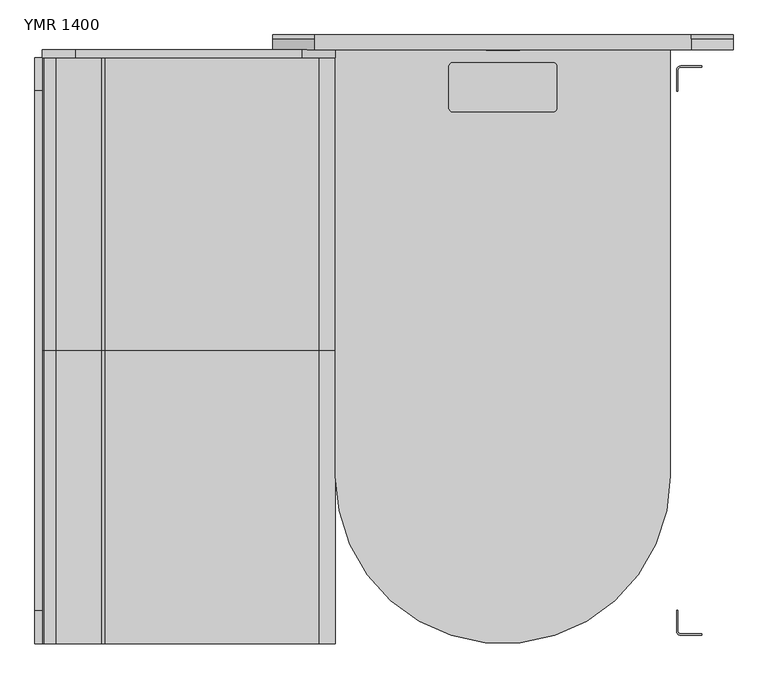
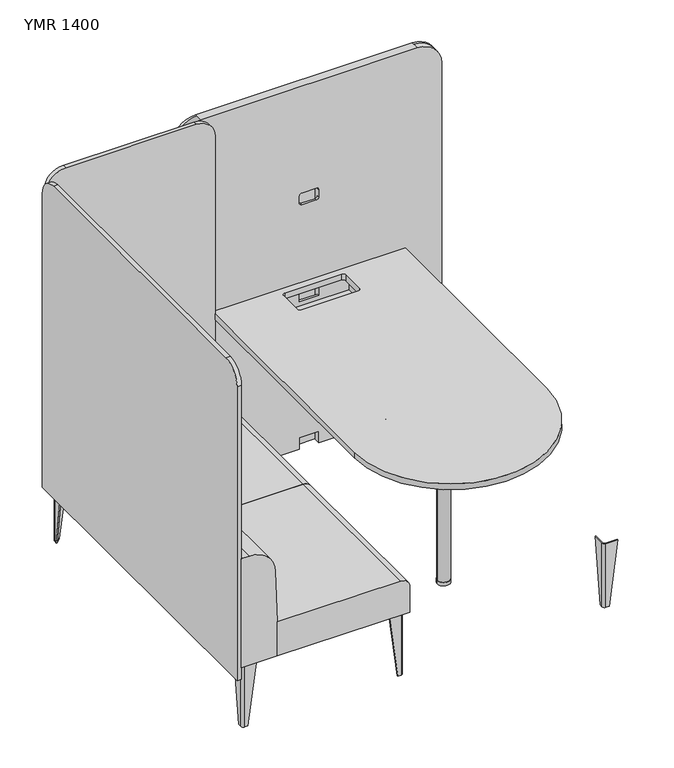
"""IFC4 building model written with IfcOpenShell, lengths in millimetres: furniture geometry, Mobiliário_Mobiliário de Escritório_LinhaYoung_Multimídia Enclosure - YMR_Marelli : YMR 1400."""

from ifc_helpers import new_model, si_unit, point, frame, frame_2d, origin, origin_with_axes, place, context, project, spatial, polyline, circle_curve, trimmed, segment, composite_curve, outline, extrude, source, transform, mapped, element, save
from ifc_brep_helpers import plane_surface, cylinder_surface, revolved_surface, advanced_brep


def ymr_1400_ceb6d955(model_context):
    return source(origin(), model_context, "Body", "SolidModel", [
        advanced_brep(
        [(360.0, -9.0, 10.0), (440.0, -9.0, 10.0), (440.0, -9.0, 1130.0), (360.0, -9.0, 1130.0), (-150.0, 0.0, 1500.0), (-50.0, 0.0, 1600.0), (850.0, 0.0, 1600.0), (950.0, 0.0, 1500.0), (950.0, 0.0, 10.0), (-150.0, 0.0, 10.0), (-150.0, -36.0, 10.0), (-150.0, -36.0, 1500.0), (-150.0, -9.0, 1500.0), (950.0, -36.0, 10.0), (440.0, -36.0, 10.0), (360.0, -36.0, 10.0), (950.0, -9.0, 1500.0), (950.0, -36.0, 1500.0), (850.0, -9.0, 1600.0), (-50.0, -9.0, 1600.0), (-50.0, -36.0, 1600.0), (850.0, -36.0, 1600.0), (360.0, -36.0, 60.0), (440.0, -36.0, 60.0), (360.0, -36.0, 1090.0), (360.0, -36.0, 1120.0), (370.0, -36.0, 1130.0), (430.0, -36.0, 1130.0), (440.0, -36.0, 1120.0), (440.0, -36.0, 1090.0), (430.0, -36.0, 1080.0), (370.0, -36.0, 1080.0), (360.0, -36.0, 657.0), (360.0, -36.0, 707.0), (440.0, -36.0, 707.0), (440.0, -36.0, 657.0), (440.0, -27.0, 60.0), (440.0, -27.0, 657.0), (440.0, -27.0, 707.0), (440.0, -27.0, 1090.0), (440.0, -27.0, 1120.0), (440.0, -27.0, 1130.0), (430.0, -27.0, 1130.0), (370.0, -27.0, 1130.0), (360.0, -27.0, 1130.0), (360.0, -27.0, 1120.0), (360.0, -27.0, 1090.0), (360.0, -27.0, 707.0), (360.0, -27.0, 657.0), (360.0, -27.0, 60.0), (370.0, -27.0, 1080.0), (430.0, -27.0, 1080.0)],
        [
            (0, 1),
            (1, 2),
            (2, 3),
            (3, 0),
            (4, 5, circle_curve(frame((-50.0, 0.0, 1500.0), z_axis=(0.0, 1.0, 0.0), x_axis=(1.0, 0.0, 0.0)), 100.0)),
            (5, 6),
            (6, 7, circle_curve(frame((850.0, 0.0, 1500.0), z_axis=(0.0, 1.0, 0.0), x_axis=(-1.0, 0.0, 0.0)), 100.0)),
            (7, 8),
            (8, 9),
            (9, 4),
            (9, 10),
            (10, 11),
            (11, 12),
            (12, 4),
            (8, 13),
            (13, 14),
            (14, 1),
            (0, 15),
            (15, 10),
            (7, 16),
            (16, 17),
            (17, 13),
            (6, 18),
            (18, 16, circle_curve(frame((850.0, -9.0, 1500.0), z_axis=(0.0, 1.0, 0.0), x_axis=(-1.0, 0.0, 0.0)), 100.0)),
            (5, 19),
            (19, 20),
            (20, 21),
            (21, 18),
            (12, 19, circle_curve(frame((-50.0, -9.0, 1500.0), z_axis=(0.0, 1.0, 0.0), x_axis=(1.0, 0.0, 0.0)), 100.0)),
            (15, 22),
            (22, 23),
            (23, 14),
            (17, 21, circle_curve(frame((850.0, -36.0, 1500.0), z_axis=(0.0, -1.0, 0.0), x_axis=(-1.0, 0.0, 0.0)), 100.0)),
            (20, 11, circle_curve(frame((-50.0, -36.0, 1500.0), z_axis=(0.0, -1.0, 0.0), x_axis=(1.0, 0.0, 0.0)), 100.0)),
            (24, 25),
            (25, 26, circle_curve(frame((370.0, -36.0, 1120.0), z_axis=(0.0, 1.0, 0.0), x_axis=(-1.0, 0.0, 0.0)), 10.0)),
            (26, 27),
            (27, 28, circle_curve(frame((430.0, -36.0, 1120.0), z_axis=(0.0, 1.0, 0.0), x_axis=(1.0, 0.0, 0.0)), 10.0)),
            (28, 29),
            (29, 30, circle_curve(frame((430.0, -36.0, 1090.0), z_axis=(0.0, 1.0, 0.0), x_axis=(1.0, 0.0, 0.0)), 10.0)),
            (30, 31),
            (31, 24, circle_curve(frame((370.0, -36.0, 1090.0), z_axis=(0.0, 1.0, 0.0), x_axis=(-1.0, 0.0, 0.0)), 10.0)),
            (32, 33),
            (33, 34),
            (34, 35),
            (35, 32),
            (23, 36),
            (36, 37),
            (37, 35),
            (34, 38),
            (38, 39),
            (39, 29),
            (28, 40),
            (40, 41),
            (41, 2),
            (41, 42),
            (42, 27),
            (26, 43),
            (43, 44),
            (44, 3),
            (44, 45),
            (45, 25),
            (24, 46),
            (46, 47),
            (47, 33),
            (32, 48),
            (48, 49),
            (49, 22),
            (40, 42, circle_curve(frame((430.0, -27.0, 1120.0), z_axis=(0.0, -1.0, 0.0), x_axis=(1.0, 0.0, 0.0)), 10.0)),
            (43, 45, circle_curve(frame((370.0, -27.0, 1120.0), z_axis=(0.0, -1.0, 0.0), x_axis=(-1.0, 0.0, 0.0)), 10.0)),
            (36, 49),
            (48, 37),
            (38, 47),
            (46, 50, circle_curve(frame((370.0, -27.0, 1090.0), z_axis=(0.0, -1.0, 0.0), x_axis=(-1.0, 0.0, 0.0)), 10.0)),
            (50, 51),
            (51, 39, circle_curve(frame((430.0, -27.0, 1090.0), z_axis=(0.0, -1.0, 0.0), x_axis=(1.0, 0.0, 0.0)), 10.0)),
            (51, 30),
            (50, 31),
        ],
        [
            plane_surface(frame((-150.0, -9.0, 0.0), z_axis=(0.0, -1.0, 0.0), x_axis=(0.0, 0.0, -1.0))),
            plane_surface(frame((-150.0, 0.0, 0.0), z_axis=(0.0, 1.0, 0.0), x_axis=(0.0, 0.0, 1.0))),
            plane_surface(frame((-150.0, -9.0, 1500.0), z_axis=(-1.0, 0.0, 0.0), x_axis=(0.0, 1.0, 0.0))),
            plane_surface(frame((-150.0, -9.0, 10.0), z_axis=(0.0, 0.0, -1.0), x_axis=(0.0, 1.0, 0.0))),
            plane_surface(frame((950.0, -9.0, 10.0), z_axis=(1.0, 0.0, 0.0), x_axis=(0.0, 1.0, 0.0))),
            cylinder_surface(frame((850.0, 0.0, 1500.0), z_axis=(0.0, -1.0, 0.0), x_axis=(-1.0, 0.0, 0.0)), 100.0),
            plane_surface(frame((850.0, -9.0, 1600.0), z_axis=(0.0, 0.0, 1.0), x_axis=(0.0, 1.0, 0.0))),
            cylinder_surface(frame((-50.0, 0.0, 1500.0), z_axis=(0.0, -1.0, 0.0), x_axis=(1.0, 0.0, 0.0)), 100.0),
            plane_surface(frame((50.0, -36.0, 1500.0), z_axis=(0.0, -1.0, 0.0), x_axis=(0.0, 0.0, 1.0))),
            cylinder_surface(frame((850.0, -36.0, 1500.0), z_axis=(0.0, 1.0, 0.0), x_axis=(-1.0, 0.0, 0.0)), 100.0),
            cylinder_surface(frame((-50.0, -36.0, 1500.0), z_axis=(0.0, 1.0, 0.0), x_axis=(1.0, 0.0, 0.0)), 100.0),
            plane_surface(frame((440.0, -9.0, 10.0), z_axis=(-1.0, 0.0, 0.0), x_axis=(0.0, -1.0, 0.0))),
            plane_surface(frame((440.0, -9.0, 1130.0), z_axis=(0.0, 0.0, -1.0), x_axis=(0.0, -1.0, 0.0))),
            plane_surface(frame((360.0, -9.0, 1130.0), z_axis=(1.0, 0.0, 0.0), x_axis=(0.0, -1.0, 0.0))),
            plane_surface(frame((440.0, -27.0, 1130.0), z_axis=(0.0, 1.0, 0.0), x_axis=(0.0, 0.0, -1.0))),
            revolved_surface(polyline([(440.0, -27.0, 1120.0), (440.0, -36.0, 1120.0)]), (430.0, -27.0, 1120.0), (0.0, 1.0, 0.0)),
            revolved_surface(polyline([(360.0, -27.0, 1120.0), (360.0, -36.0, 1120.0)]), (370.0, 0.0, 1120.0), (0.0, 1.0, 0.0)),
            revolved_surface(polyline([(440.0, -27.0, 1090.0), (440.0, -36.0, 1090.0)]), (430.0, 0.0, 1090.0), (0.0, 1.0, 0.0)),
            plane_surface(frame((430.0, -36.0, 1080.0), z_axis=(0.0, 0.0, 1.0), x_axis=(0.0, 1.0, 0.0))),
            revolved_surface(polyline([(360.0, -27.0, 1090.0), (360.0, -36.0, 1090.0)]), (370.0, 0.0, 1090.0), (0.0, 1.0, 0.0)),
            plane_surface(frame((360.0, -36.0, 60.0), z_axis=(0.0, 0.0, -1.0), x_axis=(0.0, 1.0, 0.0))),
            plane_surface(frame((440.0, -36.0, 657.0), z_axis=(0.0, 0.0, 1.0), x_axis=(0.0, 1.0, 0.0))),
            plane_surface(frame((360.0, -36.0, 707.0), z_axis=(0.0, 0.0, -1.0), x_axis=(0.0, 1.0, 0.0))),
        ],
        [
            (0, [[1, 2, 3, 4]]),
            (1, [[5, 6, 7, 8, 9, 10]]),
            (2, [[-10, 11, 12, 13, 14]]),
            (3, [[-9, 15, 16, 17, -1, 18, 19, -11]]),
            (4, [[-8, 20, 21, 22, -15]]),
            (5, [[-7, 23, 24, -20]]),
            (6, [[-6, 25, 26, 27, 28, -23]]),
            (7, [[-5, -14, 29, -25]]),
            (8, [[-12, -19, 30, 31, 32, -16, -22, 33, -27, 34], [35, 36, 37, 38, 39, 40, 41, 42], [43, 44, 45, 46]]),
            (9, [[-33, -21, -24, -28]]),
            (10, [[-34, -26, -29, -13]]),
            (11, [[-17, -32, 47, 48, 49, -45, 50, 51, 52, -39, 53, 54, 55, -2]]),
            (12, [[-3, -55, 56, 57, -37, 58, 59, 60]]),
            (13, [[-18, -4, -60, 61, 62, -35, 63, 64, 65, -43, 66, 67, 68, -30]]),
            (14, [[69, -56, -54]]),
            (14, [[70, -61, -59]]),
            (14, [[71, -67, 72, -48]]),
            (14, [[73, -64, 74, 75, 76, -51]]),
            (15, [[-38, -57, -69, -53]]),
            (16, [[-36, -62, -70, -58]]),
            (17, [[-40, -52, -76, 77]]),
            (18, [[-41, -77, -75, 78]]),
            (19, [[-42, -78, -74, -63]]),
            (20, [[-31, -68, -71, -47]]),
            (21, [[-46, -49, -72, -66]]),
            (22, [[-44, -65, -73, -50]]),
        ],
    ),
        extrude(outline(composite_curve([segment(trimmed(circle_curve(frame_2d((400.0, -1054.0)), 400.0), [point((800.0, -1054.0))], [point((0.0, -1054.0))], False, "CARTESIAN"), True, "CONTINUOUS"), segment(polyline([(0.0, -1054.0), (0.0, -36.0), (800.0, -36.0), (800.0, -1054.0)]), True, "CONTINUOUS")], self_intersect=False), holes=[composite_curve([segment(polyline([(519.0, -66.0), (281.0, -66.0)]), True, "CONTINUOUS"), segment(trimmed(circle_curve(frame_2d((281.0, -76.0)), 10.0), [point((281.0, -66.0))], [point((271.0, -76.0))], True, "CARTESIAN"), True, "CONTINUOUS"), segment(polyline([(271.0, -76.0), (271.0, -174.0)]), True, "CONTINUOUS"), segment(trimmed(circle_curve(frame_2d((281.0, -174.0)), 10.0), [point((271.0, -174.0))], [point((281.0, -184.0))], True, "CARTESIAN"), True, "CONTINUOUS"), segment(polyline([(281.0, -184.0), (519.0, -184.0)]), True, "CONTINUOUS"), segment(trimmed(circle_curve(frame_2d((519.0, -174.0)), 10.0), [point((519.0, -184.0))], [point((529.0, -174.0))], True, "CARTESIAN"), True, "CONTINUOUS"), segment(polyline([(529.0, -174.0), (529.0, -76.0)]), True, "CONTINUOUS"), segment(trimmed(circle_curve(frame_2d((519.0, -76.0)), 10.0), [point((529.0, -76.0))], [point((519.0, -66.0))], True, "CARTESIAN"), True, "CONTINUOUS")], self_intersect=False)]), frame((0.0, 0.0, 715.0), z_axis=(0.0, 0.0, 1.0), x_axis=(1.0, 0.0, 0.0)), (0.0, 0.0, 1.0), 25.0),
        extrude(outline(composite_curve([segment(polyline([(359.3038815, -954.0), (440.6961185, -954.0)]), True, "CONTINUOUS"), segment(trimmed(circle_curve(frame_2d((440.6961185, -955.8038815)), 1.8038815), [point((440.6961185, -954.0))], [point((442.5, -955.8038815))], False, "CARTESIAN"), True, "CONTINUOUS"), segment(polyline([(442.5, -955.8038815), (442.5, -1052.1961185)]), True, "CONTINUOUS"), segment(trimmed(circle_curve(frame_2d((440.6961185, -1052.1961185)), 1.8038815), [point((442.5, -1052.1961185))], [point((440.6961185, -1054.0))], False, "CARTESIAN"), True, "CONTINUOUS"), segment(polyline([(440.6961185, -1054.0), (359.3038815, -1054.0)]), True, "CONTINUOUS"), segment(trimmed(circle_curve(frame_2d((359.3038815, -1052.1961185)), 1.8038815), [point((359.3038815, -1054.0))], [point((357.5, -1052.1961185))], False, "CARTESIAN"), True, "CONTINUOUS"), segment(polyline([(357.5, -1052.1961185), (357.5, -955.8038815)]), True, "CONTINUOUS"), segment(trimmed(circle_curve(frame_2d((359.3038815, -955.8038815)), 1.8038815), [point((357.5, -955.8038815))], [point((359.3038815, -954.0))], False, "CARTESIAN"), True, "CONTINUOUS")], self_intersect=False)), frame((0.0, 0.0, 713.0), z_axis=(0.0, 0.0, 1.0), x_axis=(1.0, 0.0, 0.0)), (0.0, 0.0, 1.0), 2.0),
        extrude(outline(composite_curve([segment(trimmed(circle_curve(frame_2d((400.0, -1004.0)), 25.0), [point((375.0, -1004.0))], [point((425.0, -1004.0))], False, "CARTESIAN"), True, "CONTINUOUS"), segment(trimmed(circle_curve(frame_2d((400.0, -1004.0)), 25.0), [point((425.0, -1004.0))], [point((375.0, -1004.0))], False, "CARTESIAN"), True, "CONTINUOUS")], self_intersect=False)), frame((0.0, 0.0, 15.0), z_axis=(0.0, 0.0, 1.0), x_axis=(1.0, 0.0, 0.0)), (0.0, 0.0, 1.0), 698.0),
        extrude(outline(composite_curve([segment(trimmed(circle_curve(frame_2d((400.0, -1004.0)), 26.0), [point((374.0, -1004.0))], [point((426.0, -1004.0))], False, "CARTESIAN"), True, "CONTINUOUS"), segment(trimmed(circle_curve(frame_2d((400.0, -1004.0)), 26.0), [point((426.0, -1004.0))], [point((374.0, -1004.0))], False, "CARTESIAN"), True, "CONTINUOUS")], self_intersect=False)), origin_with_axes(), (0.0, 0.0, 1.0), 15.0),
        extrude(outline(polyline([(-36.0, 582.0), (-38.0, 582.0), (-38.0, 665.1173334), (-91.4142136, 713.5857864), (-148.0, 713.5857864), (-148.0, 715.0), (-90.0, 715.0), (-36.0, 666.0), (-36.0, 582.0)])), frame((100.0, 0.0, 0.0), z_axis=(1.0, 0.0, 0.0), x_axis=(0.0, 1.0, 0.0)), (0.0, 0.0, 1.0), 85.0),
        extrude(outline(polyline([(-36.0, 582.0), (-38.0, 582.0), (-38.0, 665.1173334), (-91.4142136, 713.5857864), (-148.0, 713.5857864), (-148.0, 715.0), (-90.0, 715.0), (-36.0, 666.0), (-36.0, 582.0)])), frame((615.0, 0.0, 0.0), z_axis=(1.0, 0.0, 0.0), x_axis=(0.0, 1.0, 0.0)), (0.0, 0.0, 1.0), 85.0),
        extrude(outline(composite_curve([segment(polyline([(459.0, 465.0), (459.0, 335.0)]), True, "CONTINUOUS"), segment(trimmed(circle_curve(frame_2d((449.0, 335.0)), 10.0), [point((459.0, 335.0))], [point((449.0, 325.0))], False, "CARTESIAN"), True, "CONTINUOUS"), segment(polyline([(449.0, 325.0), (412.0, 325.0)]), True, "CONTINUOUS"), segment(trimmed(circle_curve(frame_2d((412.0, 335.0)), 10.0), [point((412.0, 325.0))], [point((402.0, 335.0))], False, "CARTESIAN"), True, "CONTINUOUS"), segment(polyline([(402.0, 335.0), (402.0, 465.0)]), True, "CONTINUOUS"), segment(trimmed(circle_curve(frame_2d((412.0, 465.0)), 10.0), [point((402.0, 465.0))], [point((412.0, 475.0))], False, "CARTESIAN"), True, "CONTINUOUS"), segment(polyline([(412.0, 475.0), (449.0, 475.0)]), True, "CONTINUOUS"), segment(trimmed(circle_curve(frame_2d((449.0, 465.0)), 10.0), [point((449.0, 475.0))], [point((459.0, 465.0))], False, "CARTESIAN"), True, "CONTINUOUS")], self_intersect=False)), frame((0.0, -41.0, 0.0), z_axis=(0.0, 1.0, 0.0), x_axis=(0.0, 0.0, 1.0)), (0.0, 0.0, 1.0), 5.0),
        extrude(outline(composite_curve([segment(trimmed(circle_curve(frame_2d((465.0, -302.0)), 10.0), [point((465.0, -292.0))], [point((475.0, -302.0))], False, "CARTESIAN"), True, "CONTINUOUS"), segment(polyline([(475.0, -302.0), (475.0, -339.0)]), True, "CONTINUOUS"), segment(trimmed(circle_curve(frame_2d((465.0, -339.0)), 10.0), [point((475.0, -339.0))], [point((465.0, -349.0))], False, "CARTESIAN"), True, "CONTINUOUS"), segment(polyline([(465.0, -349.0), (335.0, -349.0)]), True, "CONTINUOUS"), segment(trimmed(circle_curve(frame_2d((335.0, -339.0)), 10.0), [point((335.0, -349.0))], [point((325.0, -339.0))], False, "CARTESIAN"), True, "CONTINUOUS"), segment(polyline([(325.0, -339.0), (325.0, -302.0)]), True, "CONTINUOUS"), segment(trimmed(circle_curve(frame_2d((335.0, -302.0)), 10.0), [point((325.0, -302.0))], [point((335.0, -292.0))], False, "CARTESIAN"), True, "CONTINUOUS"), segment(polyline([(335.0, -292.0), (465.0, -292.0)]), True, "CONTINUOUS")], self_intersect=False)), frame((0.0, 0.0, 710.0), z_axis=(0.0, 0.0, 1.0), x_axis=(1.0, 0.0, 0.0)), (0.0, 0.0, 1.0), 5.0),
        extrude(outline(polyline([(-41.0, 449.0), (-41.0, 417.0), (-334.0, 710.0), (-302.0, 710.0), (-41.0, 449.0)])), frame((389.5, 0.0, 0.0), z_axis=(1.0, 0.0, 0.0), x_axis=(0.0, 1.0, 0.0)), (0.0, 0.0, 1.0), 21.0),
        advanced_brep(
        [(74.5, -18.0, 6.0), (85.5, -18.0, 6.0), (69.5, -18.0, 0.0), (90.5, -18.0, 0.0)],
        [
            (0, 1, circle_curve(frame((80.0, -18.0, 6.0), z_axis=(0.0, 0.0, 1.0), x_axis=(-1.0, 0.0, 0.0)), 5.5)),
            (1, 0, circle_curve(frame((80.0, -18.0, 6.0), z_axis=(0.0, 0.0, 1.0), x_axis=(1.0, 0.0, 0.0)), 5.5)),
            (2, 3, circle_curve(frame((80.0, -18.0, 0.0), z_axis=(0.0, 0.0, -1.0), x_axis=(1.0, 0.0, 0.0)), 10.5)),
            (3, 2, circle_curve(frame((80.0, -18.0, 0.0), z_axis=(0.0, 0.0, -1.0), x_axis=(-1.0, 0.0, 0.0)), 10.5)),
            (3, 1),
            (0, 2),
        ],
        [
            plane_surface(frame((80.0, -18.0, 6.0), z_axis=(0.0, 0.0, 1.0), x_axis=(0.0, -1.0, 0.0))),
            plane_surface(frame((80.0, -18.0, 0.0), z_axis=(0.0, 0.0, -1.0), x_axis=(0.0, -1.0, 0.0))),
            revolved_surface(polyline([(74.5, -18.0, 5.999999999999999), (69.5, -18.0, 0.0)]), (80.0, -18.0, 12.6), (0.0, 0.0, -1.0)),
            revolved_surface(polyline([(85.5, -18.0, 5.999999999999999), (90.5, -18.0, 0.0)]), (80.0, -18.0, 12.6), (0.0, 0.0, -1.0)),
        ],
        [
            (0, [[1, 2]]),
            (1, [[3, 4]]),
            (2, [[-4, 5, -1, 6]]),
            (3, [[-3, -6, -2, -5]]),
        ],
    ),
        advanced_brep(
        [(725.5, -18.0, 6.0), (714.5, -18.0, 6.0), (730.5, -18.0, 0.0), (709.5, -18.0, 0.0)],
        [
            (0, 1, circle_curve(frame((720.0, -18.0, 6.0), z_axis=(0.0, 0.0, 1.0), x_axis=(1.0, 0.0, 0.0)), 5.5)),
            (1, 0, circle_curve(frame((720.0, -18.0, 6.0), z_axis=(0.0, 0.0, 1.0), x_axis=(-1.0, 0.0, 0.0)), 5.5)),
            (2, 3, circle_curve(frame((720.0, -18.0, 0.0), z_axis=(0.0, 0.0, -1.0), x_axis=(-1.0, 0.0, 0.0)), 10.5)),
            (3, 2, circle_curve(frame((720.0, -18.0, 0.0), z_axis=(0.0, 0.0, -1.0), x_axis=(1.0, 0.0, 0.0)), 10.5)),
            (2, 0),
            (1, 3),
        ],
        [
            plane_surface(frame((720.0, -18.0, 6.0), z_axis=(0.0, 0.0, 1.0), x_axis=(0.0, 1.0, 0.0))),
            plane_surface(frame((720.0, -18.0, 0.0), z_axis=(0.0, 0.0, -1.0), x_axis=(0.0, 1.0, 0.0))),
            revolved_surface(polyline([(714.5, -18.0, 5.999999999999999), (709.5, -18.0, 0.0)]), (720.0, -18.0, 12.6), (0.0, 0.0, -1.0)),
            revolved_surface(polyline([(725.5, -18.0, 5.999999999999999), (730.5, -18.0, 0.0)]), (720.0, -18.0, 12.6), (0.0, 0.0, -1.0)),
        ],
        [
            (0, [[1, 2]]),
            (1, [[3, 4]]),
            (2, [[-3, 5, -2, 6]]),
            (3, [[-4, -6, -1, -5]]),
        ],
    ),
        extrude(outline(composite_curve([segment(trimmed(circle_curve(frame_2d((80.0, -18.0)), 5.0), [point((75.0, -18.0))], [point((85.0, -18.0))], False, "CARTESIAN"), True, "CONTINUOUS"), segment(trimmed(circle_curve(frame_2d((80.0, -18.0)), 5.0), [point((85.0, -18.0))], [point((75.0, -18.0))], False, "CARTESIAN"), True, "CONTINUOUS")], self_intersect=False)), frame((0.0, 0.0, 6.0), z_axis=(0.0, 0.0, 1.0), x_axis=(1.0, 0.0, 0.0)), (0.0, 0.0, 1.0), 4.0),
        extrude(outline(composite_curve([segment(trimmed(circle_curve(frame_2d((720.0, -18.0)), 5.0), [point((725.0, -18.0))], [point((715.0, -18.0))], False, "CARTESIAN"), True, "CONTINUOUS"), segment(trimmed(circle_curve(frame_2d((720.0, -18.0)), 5.0), [point((715.0, -18.0))], [point((725.0, -18.0))], False, "CARTESIAN"), True, "CONTINUOUS")], self_intersect=False)), frame((0.0, 0.0, 6.0), z_axis=(0.0, 0.0, 1.0), x_axis=(1.0, 0.0, 0.0)), (0.0, 0.0, 1.0), 4.0),
        extrude(outline(polyline([(645.0, 239.0), (645.0, 561.0), (715.0, 561.0), (715.0, 560.0), (646.0, 560.0), (646.0, 240.0), (715.0, 240.0), (715.0, 239.0), (645.0, 239.0)])), frame((0.0, -191.0, 0.0), z_axis=(0.0, 1.0, 0.0), x_axis=(0.0, 0.0, 1.0)), (0.0, 0.0, 1.0), 145.0),
        extrude(outline(polyline([(558.0, -191.0), (245.0, -191.0), (245.0, -190.0), (558.0, -190.0), (558.0, -191.0)])), frame((0.0, 0.0, 648.0), z_axis=(0.0, 0.0, 1.0), x_axis=(1.0, 0.0, 0.0)), (0.0, 0.0, 1.0), 67.0),
        advanced_brep(
        [(-75.0, -1434.0, 280.0), (-25.0, -1434.0, 280.0), (-15.0, -1424.0, 280.0), (-15.0, -1374.0, 280.0), (-18.0, -1374.0, 280.0), (-18.0, -1424.0, 280.0), (-25.0, -1431.0, 280.0), (-75.0, -1431.0, 280.0), (-39.0, -1434.0, 0.0), (-39.0, -1431.0, 0.0), (-25.0, -1431.0, 0.0), (-18.0, -1424.0, 0.0), (-18.0, -1410.0, 0.0), (-15.0, -1410.0, 0.0), (-15.0, -1424.0, 0.0), (-25.0, -1434.0, 0.0)],
        [
            (0, 1),
            (1, 2, circle_curve(frame((-25.0, -1424.0, 280.0), z_axis=(0.0, 0.0, 1.0), x_axis=(1.0, 0.0, 0.0)), 10.0)),
            (2, 3),
            (3, 4),
            (4, 5),
            (5, 6, circle_curve(frame((-25.0, -1424.0, 280.0), z_axis=(0.0, 0.0, -1.0), x_axis=(0.0, -1.0, 0.0)), 7.0)),
            (6, 7),
            (7, 0),
            (8, 9),
            (9, 10),
            (10, 11, circle_curve(frame((-25.0, -1424.0, 0.0), z_axis=(0.0, 0.0, 1.0), x_axis=(0.0, -1.0, 0.0)), 7.0)),
            (11, 12),
            (12, 13),
            (13, 14),
            (14, 15, circle_curve(frame((-25.0, -1424.0, 0.0), z_axis=(0.0, 0.0, -1.0), x_axis=(1.0, 0.0, 0.0)), 10.0)),
            (15, 8),
            (15, 1),
            (0, 8),
            (14, 2),
            (13, 3),
            (12, 4),
            (11, 5),
            (10, 6),
            (9, 7),
        ],
        [
            plane_surface(frame((-33.25, -1415.75, 280.0), z_axis=(0.0, 0.0, 1.0), x_axis=(1.0, 0.0, 0.0))),
            plane_surface(frame((-24.25, -1424.75, 0.0), z_axis=(0.0, 0.0, -1.0), x_axis=(1.0, 0.0, 0.0))),
            plane_surface(frame((-32.0, -1434.0, 0.0), z_axis=(0.0, -1.0, 0.0), x_axis=(1.0, 0.0, 0.0))),
            cylinder_surface(frame((-25.0, -1424.0, 0.0), z_axis=(0.0, 0.0, 1.0), x_axis=(1.0, 0.0, 0.0)), 10.0),
            plane_surface(frame((-15.0, -1417.0, 0.0), z_axis=(1.0, 0.0, 0.0), x_axis=(0.0, 1.0, 0.0))),
            plane_surface(frame((-16.5, -1410.0, 0.0), z_axis=(0.0, 0.9918357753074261, -0.127521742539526), x_axis=(-1.0, 0.0, 0.0))),
            plane_surface(frame((-18.0, -1417.0, 0.0), z_axis=(-1.0, 0.0, 0.0), x_axis=(0.0, -1.0, 0.0))),
            revolved_surface(polyline([(-25.0, -1431.0, 280.0), (-25.0, -1431.0, 0.0)]), (-25.0, -1424.0, 0.0), (0.0, 0.0, 1.0)),
            plane_surface(frame((-32.0, -1431.0, 0.0), z_axis=(0.0, 1.0, 0.0), x_axis=(-1.0, 0.0, 0.0))),
            plane_surface(frame((-39.0, -1432.5, 0.0), z_axis=(-0.9918357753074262, 0.0, -0.12752174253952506), x_axis=(0.0, -1.0, 0.0))),
        ],
        [
            (0, [[1, 2, 3, 4, 5, 6, 7, 8]]),
            (1, [[9, 10, 11, 12, 13, 14, 15, 16]]),
            (2, [[-16, 17, -1, 18]]),
            (3, [[-15, 19, -2, -17]]),
            (4, [[-14, 20, -3, -19]]),
            (5, [[-13, 21, -4, -20]]),
            (6, [[-12, 22, -5, -21]]),
            (7, [[-11, 23, -6, -22]]),
            (8, [[-10, 24, -7, -23]]),
            (9, [[-9, -18, -8, -24]]),
        ],
    ),
        advanced_brep(
        [(-75.0, -74.0, 280.0), (-75.0, -77.0, 280.0), (-25.0, -77.0, 280.0), (-18.0, -84.0, 280.0), (-18.0, -134.0, 280.0), (-15.0, -134.0, 280.0), (-15.0, -84.0, 280.0), (-25.0, -74.0, 280.0), (-39.0, -74.0, 0.0), (-25.0, -74.0, 0.0), (-15.0, -84.0, 0.0), (-15.0, -98.0, 0.0), (-18.0, -98.0, 0.0), (-18.0, -84.0, 0.0), (-25.0, -77.0, 0.0), (-39.0, -77.0, 0.0)],
        [
            (0, 1),
            (1, 2),
            (2, 3, circle_curve(frame((-25.0, -84.0, 280.0), z_axis=(0.0, 0.0, -1.0), x_axis=(1.0, 0.0, 0.0)), 7.0)),
            (3, 4),
            (4, 5),
            (5, 6),
            (6, 7, circle_curve(frame((-25.0, -84.0, 280.0), z_axis=(0.0, 0.0, 1.0), x_axis=(0.0, 1.0, 0.0)), 10.0)),
            (7, 0),
            (8, 9),
            (9, 10, circle_curve(frame((-25.0, -84.0, 0.0), z_axis=(0.0, 0.0, -1.0), x_axis=(0.0, 1.0, 0.0)), 10.0)),
            (10, 11),
            (11, 12),
            (12, 13),
            (13, 14, circle_curve(frame((-25.0, -84.0, 0.0), z_axis=(0.0, 0.0, 1.0), x_axis=(1.0, 0.0, 0.0)), 7.0)),
            (14, 15),
            (15, 8),
            (8, 0),
            (7, 9),
            (6, 10),
            (5, 11),
            (4, 12),
            (3, 13),
            (2, 14),
            (1, 15),
        ],
        [
            plane_surface(frame((-33.25, -92.25, 280.0), z_axis=(0.0, 0.0, 1.0), x_axis=(0.0, -1.0, 0.0))),
            plane_surface(frame((-24.25, -83.25, 0.0), z_axis=(0.0, 0.0, -1.0), x_axis=(0.0, -1.0, 0.0))),
            plane_surface(frame((-32.0, -74.0, 0.0), z_axis=(0.0, 1.0, 0.0), x_axis=(-1.0, 0.0, 0.0))),
            cylinder_surface(frame((-25.0, -84.0, 0.0), z_axis=(0.0, 0.0, 1.0), x_axis=(0.0, 1.0, 0.0)), 10.0),
            plane_surface(frame((-15.0, -91.0, 0.0), z_axis=(1.0, 0.0, 0.0), x_axis=(0.0, 1.0, 0.0))),
            plane_surface(frame((-16.5, -98.0, 0.0), z_axis=(0.0, -0.9918357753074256, -0.12752174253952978), x_axis=(1.0, 0.0, 0.0))),
            plane_surface(frame((-18.0, -91.0, 0.0), z_axis=(-1.0, 0.0, 0.0), x_axis=(0.0, -1.0, 0.0))),
            revolved_surface(polyline([(-18.0, -84.0, 280.0), (-18.0, -84.0, 0.0)]), (-25.0, -84.0, 0.0), (0.0, 0.0, 1.0)),
            plane_surface(frame((-32.0, -77.0, 0.0), z_axis=(0.0, -1.0, 0.0), x_axis=(1.0, 0.0, 0.0))),
            plane_surface(frame((-39.0, -75.5, 0.0), z_axis=(-0.9918357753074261, 0.0, -0.12752174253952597), x_axis=(0.0, -1.0, 0.0))),
        ],
        [
            (0, [[1, 2, 3, 4, 5, 6, 7, 8]]),
            (1, [[9, 10, 11, 12, 13, 14, 15, 16]]),
            (2, [[-9, 17, -8, 18]]),
            (3, [[-10, -18, -7, 19]]),
            (4, [[-11, -19, -6, 20]]),
            (5, [[-12, -20, -5, 21]]),
            (6, [[-13, -21, -4, 22]]),
            (7, [[-14, -22, -3, 23]]),
            (8, [[-15, -23, -2, 24]]),
            (9, [[-16, -24, -1, -17]]),
        ],
    ),
        advanced_brep(
        [(-625.0, -1434.0, 280.0), (-625.0, -1431.0, 280.0), (-675.0, -1431.0, 280.0), (-682.0, -1424.0, 280.0), (-682.0, -1374.0, 280.0), (-685.0, -1374.0, 280.0), (-685.0, -1424.0, 280.0), (-675.0, -1434.0, 280.0), (-661.0, -1434.0, 0.0), (-675.0, -1434.0, 0.0), (-685.0, -1424.0, 0.0), (-685.0, -1410.0, 0.0), (-682.0, -1410.0, 0.0), (-682.0, -1424.0, 0.0), (-675.0, -1431.0, 0.0), (-661.0, -1431.0, 0.0)],
        [
            (0, 1),
            (1, 2),
            (2, 3, circle_curve(frame((-675.0, -1424.0, 280.0), z_axis=(0.0, 0.0, -1.0), x_axis=(-1.0, 0.0, 0.0)), 7.0)),
            (3, 4),
            (4, 5),
            (5, 6),
            (6, 7, circle_curve(frame((-675.0, -1424.0, 280.0), z_axis=(0.0, 0.0, 1.0), x_axis=(0.0, -1.0, 0.0)), 10.0)),
            (7, 0),
            (8, 9),
            (9, 10, circle_curve(frame((-675.0, -1424.0, 0.0), z_axis=(0.0, 0.0, -1.0), x_axis=(0.0, -1.0, 0.0)), 10.0)),
            (10, 11),
            (11, 12),
            (12, 13),
            (13, 14, circle_curve(frame((-675.0, -1424.0, 0.0), z_axis=(0.0, 0.0, 1.0), x_axis=(-1.0, 0.0, 0.0)), 7.0)),
            (14, 15),
            (15, 8),
            (8, 0),
            (7, 9),
            (6, 10),
            (5, 11),
            (4, 12),
            (3, 13),
            (2, 14),
            (1, 15),
        ],
        [
            plane_surface(frame((-666.75, -1415.75, 280.0), z_axis=(0.0, 0.0, 1.0), x_axis=(0.0, 1.0, 0.0))),
            plane_surface(frame((-675.75, -1424.75, 0.0), z_axis=(0.0, 0.0, -1.0), x_axis=(0.0, 1.0, 0.0))),
            plane_surface(frame((-668.0, -1434.0, 0.0), z_axis=(0.0, -1.0, 0.0), x_axis=(1.0, 0.0, 0.0))),
            cylinder_surface(frame((-675.0, -1424.0, 0.0), z_axis=(0.0, 0.0, 1.0), x_axis=(0.0, -1.0, 0.0)), 10.0),
            plane_surface(frame((-685.0, -1417.0, 0.0), z_axis=(-1.0, 0.0, 0.0), x_axis=(0.0, -1.0, 0.0))),
            plane_surface(frame((-683.5, -1410.0, 0.0), z_axis=(0.0, 0.9918357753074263, -0.1275217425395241), x_axis=(-1.0, 0.0, 0.0))),
            plane_surface(frame((-682.0, -1417.0, 0.0), z_axis=(1.0, 0.0, 0.0), x_axis=(0.0, 1.0, 0.0))),
            revolved_surface(polyline([(-682.0, -1424.0, 280.0), (-682.0, -1424.0, 0.0)]), (-675.0, -1424.0, 0.0), (0.0, 0.0, 1.0)),
            plane_surface(frame((-668.0, -1431.0, 0.0), z_axis=(0.0, 1.0, 0.0), x_axis=(-1.0, 0.0, 0.0))),
            plane_surface(frame((-661.0, -1432.5, 0.0), z_axis=(0.9918357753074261, 0.0, -0.127521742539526), x_axis=(0.0, 1.0, 0.0))),
        ],
        [
            (0, [[1, 2, 3, 4, 5, 6, 7, 8]]),
            (1, [[9, 10, 11, 12, 13, 14, 15, 16]]),
            (2, [[-9, 17, -8, 18]]),
            (3, [[-10, -18, -7, 19]]),
            (4, [[-11, -19, -6, 20]]),
            (5, [[-12, -20, -5, 21]]),
            (6, [[-13, -21, -4, 22]]),
            (7, [[-14, -22, -3, 23]]),
            (8, [[-15, -23, -2, 24]]),
            (9, [[-16, -24, -1, -17]]),
        ],
    ),
        advanced_brep(
        [(-625.0, -74.0, 280.0), (-675.0, -74.0, 280.0), (-685.0, -84.0, 280.0), (-685.0, -134.0, 280.0), (-682.0, -134.0, 280.0), (-682.0, -84.0, 280.0), (-675.0, -77.0, 280.0), (-625.0, -77.0, 280.0), (-661.0, -74.0, 0.0), (-661.0, -77.0, 0.0), (-675.0, -77.0, 0.0), (-682.0, -84.0, 0.0), (-682.0, -98.0, 0.0), (-685.0, -98.0, 0.0), (-685.0, -84.0, 0.0), (-675.0, -74.0, 0.0)],
        [
            (0, 1),
            (1, 2, circle_curve(frame((-675.0, -84.0, 280.0), z_axis=(0.0, 0.0, 1.0), x_axis=(-1.0, 0.0, 0.0)), 10.0)),
            (2, 3),
            (3, 4),
            (4, 5),
            (5, 6, circle_curve(frame((-675.0, -84.0, 280.0), z_axis=(0.0, 0.0, -1.0), x_axis=(0.0, 1.0, 0.0)), 7.0)),
            (6, 7),
            (7, 0),
            (8, 9),
            (9, 10),
            (10, 11, circle_curve(frame((-675.0, -84.0, 0.0), z_axis=(0.0, 0.0, 1.0), x_axis=(0.0, 1.0, 0.0)), 7.0)),
            (11, 12),
            (12, 13),
            (13, 14),
            (14, 15, circle_curve(frame((-675.0, -84.0, 0.0), z_axis=(0.0, 0.0, -1.0), x_axis=(-1.0, 0.0, 0.0)), 10.0)),
            (15, 8),
            (15, 1),
            (0, 8),
            (14, 2),
            (13, 3),
            (12, 4),
            (11, 5),
            (10, 6),
            (9, 7),
        ],
        [
            plane_surface(frame((-666.75, -92.25, 280.0), z_axis=(0.0, 0.0, 1.0), x_axis=(-1.0, 0.0, 0.0))),
            plane_surface(frame((-675.75, -83.25, 0.0), z_axis=(0.0, 0.0, -1.0), x_axis=(-1.0, 0.0, 0.0))),
            plane_surface(frame((-668.0, -74.0, 0.0), z_axis=(0.0, 1.0, 0.0), x_axis=(-1.0, 0.0, 0.0))),
            cylinder_surface(frame((-675.0, -84.0, 0.0), z_axis=(0.0, 0.0, 1.0), x_axis=(-1.0, 0.0, 0.0)), 10.0),
            plane_surface(frame((-685.0, -91.0, 0.0), z_axis=(-1.0, 0.0, 0.0), x_axis=(0.0, -1.0, 0.0))),
            plane_surface(frame((-683.5, -98.0, 0.0), z_axis=(0.0, -0.9918357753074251, -0.12752174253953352), x_axis=(1.0, 0.0, 0.0))),
            plane_surface(frame((-682.0, -91.0, 0.0), z_axis=(1.0, 0.0, 0.0), x_axis=(0.0, 1.0, 0.0))),
            revolved_surface(polyline([(-675.0, -77.0, 280.0), (-675.0, -77.0, 0.0)]), (-675.0, -84.0, 0.0), (0.0, 0.0, 1.0)),
            plane_surface(frame((-668.0, -77.0, 0.0), z_axis=(0.0, -1.0, 0.0), x_axis=(1.0, 0.0, 0.0))),
            plane_surface(frame((-661.0, -75.5, 0.0), z_axis=(0.9918357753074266, 0.0, -0.12752174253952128), x_axis=(0.0, 1.0, 0.0))),
        ],
        [
            (0, [[1, 2, 3, 4, 5, 6, 7, 8]]),
            (1, [[9, 10, 11, 12, 13, 14, 15, 16]]),
            (2, [[-16, 17, -1, 18]]),
            (3, [[-15, 19, -2, -17]]),
            (4, [[-14, 20, -3, -19]]),
            (5, [[-13, 21, -4, -20]]),
            (6, [[-12, 22, -5, -21]]),
            (7, [[-11, 23, -6, -22]]),
            (8, [[-10, 24, -7, -23]]),
            (9, [[-9, -18, -8, -24]]),
        ],
    ),
        extrude(outline(composite_curve([segment(polyline([(-39.0, -1431.0), (-18.0, -1410.0), (-18.0, -1424.0)]), True, "CONTINUOUS"), segment(trimmed(circle_curve(frame_2d((-25.0, -1424.0)), 7.0), [point((-18.0, -1424.0))], [point((-25.0, -1431.0))], False, "CARTESIAN"), True, "CONTINUOUS"), segment(polyline([(-25.0, -1431.0), (-39.0, -1431.0)]), True, "CONTINUOUS")], self_intersect=False)), origin_with_axes(), (0.0, 0.0, 1.0), 1.0),
        extrude(outline(composite_curve([segment(polyline([(-661.0, -1431.0), (-675.0, -1431.0)]), True, "CONTINUOUS"), segment(trimmed(circle_curve(frame_2d((-675.0, -1424.0)), 7.0), [point((-675.0, -1431.0))], [point((-682.0, -1424.0))], False, "CARTESIAN"), True, "CONTINUOUS"), segment(polyline([(-682.0, -1424.0), (-682.0, -1410.0), (-661.0, -1431.0)]), True, "CONTINUOUS")], self_intersect=False)), origin_with_axes(), (0.0, 0.0, 1.0), 1.0),
        extrude(outline(composite_curve([segment(polyline([(-39.0, -77.0), (-25.0, -77.0)]), True, "CONTINUOUS"), segment(trimmed(circle_curve(frame_2d((-25.0, -84.0)), 7.0), [point((-25.0, -77.0))], [point((-18.0, -84.0))], False, "CARTESIAN"), True, "CONTINUOUS"), segment(polyline([(-18.0, -84.0), (-18.0, -98.0), (-39.0, -77.0)]), True, "CONTINUOUS")], self_intersect=False)), origin_with_axes(), (0.0, 0.0, 1.0), 1.0),
        extrude(outline(composite_curve([segment(polyline([(-661.0, -77.0), (-682.0, -98.0), (-682.0, -84.0)]), True, "CONTINUOUS"), segment(trimmed(circle_curve(frame_2d((-675.0, -84.0)), 7.0), [point((-682.0, -84.0))], [point((-675.0, -77.0))], False, "CARTESIAN"), True, "CONTINUOUS"), segment(polyline([(-675.0, -77.0), (-661.0, -77.0)]), True, "CONTINUOUS")], self_intersect=False)), origin_with_axes(), (0.0, 0.0, 1.0), 1.0),
        extrude(outline(composite_curve([segment(trimmed(circle_curve(frame_2d((-25.0, -1424.0)), 7.0), [point((-18.0, -1424.0))], [point((-25.0, -1431.0))], False, "CARTESIAN"), True, "CONTINUOUS"), segment(polyline([(-25.0, -1431.0), (-93.0, -1431.0)]), True, "CONTINUOUS"), segment(trimmed(circle_curve(frame_2d((-93.0, -1426.0)), 5.0), [point((-93.0, -1431.0))], [point((-98.0, -1426.0))], False, "CARTESIAN"), True, "CONTINUOUS"), segment(polyline([(-98.0, -1426.0), (-98.0, -1402.0454376)]), True, "CONTINUOUS"), segment(trimmed(circle_curve(frame_2d((-89.931755, -1401.3758949)), 8.0959783), [point((-98.0, -1402.0454376))], [point((-95.479618, -1395.479618))], False, "CARTESIAN"), True, "CONTINUOUS"), segment(polyline([(-95.479618, -1395.479618), (-53.520382, -1353.520382)]), True, "CONTINUOUS"), segment(trimmed(circle_curve(frame_2d((-47.6241051, -1359.068245)), 8.0959783), [point((-53.520382, -1353.520382))], [point((-46.9545624, -1351.0))], False, "CARTESIAN"), True, "CONTINUOUS"), segment(polyline([(-46.9545624, -1351.0), (-23.0, -1351.0)]), True, "CONTINUOUS"), segment(trimmed(circle_curve(frame_2d((-23.0, -1356.0)), 5.0), [point((-23.0, -1351.0))], [point((-18.0, -1356.0))], False, "CARTESIAN"), True, "CONTINUOUS"), segment(polyline([(-18.0, -1356.0), (-18.0, -1424.0)]), True, "CONTINUOUS")], self_intersect=False)), frame((0.0, 0.0, 279.0), z_axis=(0.0, 0.0, 1.0), x_axis=(1.0, 0.0, 0.0)), (0.0, 0.0, 1.0), 1.0),
        extrude(outline(composite_curve([segment(polyline([(-682.0, -1424.0), (-682.0, -1356.0)]), True, "CONTINUOUS"), segment(trimmed(circle_curve(frame_2d((-677.0, -1356.0)), 5.0), [point((-682.0, -1356.0))], [point((-677.0, -1351.0))], False, "CARTESIAN"), True, "CONTINUOUS"), segment(polyline([(-677.0, -1351.0), (-653.0454376, -1351.0)]), True, "CONTINUOUS"), segment(trimmed(circle_curve(frame_2d((-652.3758949, -1359.068245)), 8.0959783), [point((-653.0454376, -1351.0))], [point((-646.479618, -1353.520382))], False, "CARTESIAN"), True, "CONTINUOUS"), segment(polyline([(-646.479618, -1353.520382), (-604.520382, -1395.479618)]), True, "CONTINUOUS"), segment(trimmed(circle_curve(frame_2d((-610.068245, -1401.3758949)), 8.0959783), [point((-604.520382, -1395.479618))], [point((-602.0, -1402.0454376))], False, "CARTESIAN"), True, "CONTINUOUS"), segment(polyline([(-602.0, -1402.0454376), (-602.0, -1426.0)]), True, "CONTINUOUS"), segment(trimmed(circle_curve(frame_2d((-607.0, -1426.0)), 5.0), [point((-602.0, -1426.0))], [point((-607.0, -1431.0))], False, "CARTESIAN"), True, "CONTINUOUS"), segment(polyline([(-607.0, -1431.0), (-675.0, -1431.0)]), True, "CONTINUOUS"), segment(trimmed(circle_curve(frame_2d((-675.0, -1424.0)), 7.0), [point((-675.0, -1431.0))], [point((-682.0, -1424.0))], False, "CARTESIAN"), True, "CONTINUOUS")], self_intersect=False)), frame((0.0, 0.0, 279.0), z_axis=(0.0, 0.0, 1.0), x_axis=(1.0, 0.0, 0.0)), (0.0, 0.0, 1.0), 1.0),
        extrude(outline(composite_curve([segment(polyline([(-18.0, -84.0), (-18.0, -152.0)]), True, "CONTINUOUS"), segment(trimmed(circle_curve(frame_2d((-23.0, -152.0)), 5.0), [point((-18.0, -152.0))], [point((-23.0, -157.0))], False, "CARTESIAN"), True, "CONTINUOUS"), segment(polyline([(-23.0, -157.0), (-46.9545624, -157.0)]), True, "CONTINUOUS"), segment(trimmed(circle_curve(frame_2d((-47.6241051, -148.931755)), 8.0959783), [point((-46.9545624, -157.0))], [point((-53.520382, -154.479618))], False, "CARTESIAN"), True, "CONTINUOUS"), segment(polyline([(-53.520382, -154.479618), (-95.479618, -112.520382)]), True, "CONTINUOUS"), segment(trimmed(circle_curve(frame_2d((-89.931755, -106.6241051)), 8.0959783), [point((-95.479618, -112.520382))], [point((-98.0, -105.9545624))], False, "CARTESIAN"), True, "CONTINUOUS"), segment(polyline([(-98.0, -105.9545624), (-98.0, -82.0)]), True, "CONTINUOUS"), segment(trimmed(circle_curve(frame_2d((-93.0, -82.0)), 5.0), [point((-98.0, -82.0))], [point((-93.0, -77.0))], False, "CARTESIAN"), True, "CONTINUOUS"), segment(polyline([(-93.0, -77.0), (-25.0, -77.0)]), True, "CONTINUOUS"), segment(trimmed(circle_curve(frame_2d((-25.0, -84.0)), 7.0), [point((-25.0, -77.0))], [point((-18.0, -84.0))], False, "CARTESIAN"), True, "CONTINUOUS")], self_intersect=False)), frame((0.0, 0.0, 279.0), z_axis=(0.0, 0.0, 1.0), x_axis=(1.0, 0.0, 0.0)), (0.0, 0.0, 1.0), 1.0),
        extrude(outline(composite_curve([segment(trimmed(circle_curve(frame_2d((-675.0, -84.0)), 7.0), [point((-682.0, -84.0))], [point((-675.0, -77.0))], False, "CARTESIAN"), True, "CONTINUOUS"), segment(polyline([(-675.0, -77.0), (-607.0, -77.0)]), True, "CONTINUOUS"), segment(trimmed(circle_curve(frame_2d((-607.0, -82.0)), 5.0), [point((-607.0, -77.0))], [point((-602.0, -82.0))], False, "CARTESIAN"), True, "CONTINUOUS"), segment(polyline([(-602.0, -82.0), (-602.0, -105.9545624)]), True, "CONTINUOUS"), segment(trimmed(circle_curve(frame_2d((-610.068245, -106.6241051)), 8.0959783), [point((-602.0, -105.9545624))], [point((-604.520382, -112.520382))], False, "CARTESIAN"), True, "CONTINUOUS"), segment(polyline([(-604.520382, -112.520382), (-646.479618, -154.479618)]), True, "CONTINUOUS"), segment(trimmed(circle_curve(frame_2d((-652.3758949, -148.931755)), 8.0959783), [point((-646.479618, -154.479618))], [point((-653.0454376, -157.0))], False, "CARTESIAN"), True, "CONTINUOUS"), segment(polyline([(-653.0454376, -157.0), (-677.0, -157.0)]), True, "CONTINUOUS"), segment(trimmed(circle_curve(frame_2d((-677.0, -152.0)), 5.0), [point((-677.0, -157.0))], [point((-682.0, -152.0))], False, "CARTESIAN"), True, "CONTINUOUS"), segment(polyline([(-682.0, -152.0), (-682.0, -84.0)]), True, "CONTINUOUS")], self_intersect=False)), frame((0.0, 0.0, 279.0), z_axis=(0.0, 0.0, 1.0), x_axis=(1.0, 0.0, 0.0)), (0.0, 0.0, 1.0), 1.0),
        extrude(outline(composite_curve([segment(polyline([(430.0, -550.0), (280.0, -550.0), (280.0, 0.0), (390.0, 0.0)]), True, "CONTINUOUS"), segment(trimmed(circle_curve(frame_2d((390.0, -40.0)), 40.0), [point((390.0, 0.0))], [point((430.0, -40.0))], False, "CARTESIAN"), True, "CONTINUOUS"), segment(polyline([(430.0, -40.0), (430.0, -550.0)]), True, "CONTINUOUS")], self_intersect=False)), frame((0.0, -1454.0, 0.0), z_axis=(0.0, 1.0, 0.0), x_axis=(0.0, 0.0, 1.0)), (0.0, 0.0, 1.0), 700.0),
        extrude(outline(composite_curve([segment(polyline([(430.0, -550.0), (280.0, -550.0), (280.0, 0.0), (390.0, 0.0)]), True, "CONTINUOUS"), segment(trimmed(circle_curve(frame_2d((390.0, -40.0)), 40.0), [point((390.0, 0.0))], [point((430.0, -40.0))], False, "CARTESIAN"), True, "CONTINUOUS"), segment(polyline([(430.0, -40.0), (430.0, -550.0)]), True, "CONTINUOUS")], self_intersect=False)), frame((0.0, -754.0, 0.0), z_axis=(0.0, 1.0, 0.0), x_axis=(0.0, 0.0, 1.0)), (0.0, 0.0, 1.0), 700.0),
        extrude(outline(composite_curve([segment(polyline([(756.802426, -700.0), (280.0, -700.0), (280.0, -550.0), (430.0, -550.0), (654.223651, -558.2568376)]), True, "CONTINUOUS"), segment(trimmed(circle_curve(frame_2d((650.1824561, -668.0)), 109.8175439), [point((654.223651, -558.2568376))], [point((760.0, -668.0))], False, "CARTESIAN"), True, "CONTINUOUS"), segment(polyline([(760.0, -668.0), (760.0, -696.802426)]), True, "CONTINUOUS"), segment(trimmed(circle_curve(frame_2d((756.802426, -696.802426)), 3.197574), [point((760.0, -696.802426))], [point((756.802426, -700.0))], False, "CARTESIAN"), True, "CONTINUOUS")], self_intersect=False)), frame((0.0, -1454.0, 0.0), z_axis=(0.0, 1.0, 0.0), x_axis=(0.0, 0.0, 1.0)), (0.0, 0.0, 1.0), 700.0),
        extrude(outline(composite_curve([segment(polyline([(756.802426, -700.0), (280.0, -700.0), (280.0, -550.0), (430.0, -550.0), (654.223651, -558.2568376)]), True, "CONTINUOUS"), segment(trimmed(circle_curve(frame_2d((650.1824561, -668.0)), 109.8175439), [point((654.223651, -558.2568376))], [point((760.0, -668.0))], False, "CARTESIAN"), True, "CONTINUOUS"), segment(polyline([(760.0, -668.0), (760.0, -696.802426)]), True, "CONTINUOUS"), segment(trimmed(circle_curve(frame_2d((756.802426, -696.802426)), 3.197574), [point((760.0, -696.802426))], [point((756.802426, -700.0))], False, "CARTESIAN"), True, "CONTINUOUS")], self_intersect=False)), frame((0.0, -754.0, 0.0), z_axis=(0.0, 1.0, 0.0), x_axis=(0.0, 0.0, 1.0)), (0.0, 0.0, 1.0), 700.0),
        extrude(outline(composite_curve([segment(trimmed(circle_curve(frame_2d((1520.0, -620.0)), 80.0), [point((1600.0, -620.0))], [point((1520.0, -700.0))], False, "CARTESIAN"), True, "CONTINUOUS"), segment(polyline([(1520.0, -700.0), (230.0, -700.0), (230.0, 0.0), (1520.0, 0.0)]), True, "CONTINUOUS"), segment(trimmed(circle_curve(frame_2d((1520.0, -80.0)), 80.0), [point((1520.0, 0.0))], [point((1600.0, -80.0))], False, "CARTESIAN"), True, "CONTINUOUS"), segment(polyline([(1600.0, -80.0), (1600.0, -620.0)]), True, "CONTINUOUS")], self_intersect=False)), frame((0.0, -54.0, 0.0), z_axis=(0.0, 1.0, 0.0), x_axis=(0.0, 0.0, 1.0)), (0.0, 0.0, 1.0), 18.0),
        extrude(outline(composite_curve([segment(trimmed(circle_curve(frame_2d((-134.0, 1520.0)), 80.0), [point((-134.0, 1600.0))], [point((-54.0, 1520.0))], False, "CARTESIAN"), True, "CONTINUOUS"), segment(polyline([(-54.0, 1520.0), (-54.0, 230.0), (-1454.0, 230.0), (-1454.0, 1520.0)]), True, "CONTINUOUS"), segment(trimmed(circle_curve(frame_2d((-1374.0, 1520.0)), 80.0), [point((-1454.0, 1520.0))], [point((-1374.0, 1600.0))], False, "CARTESIAN"), True, "CONTINUOUS"), segment(polyline([(-1374.0, 1600.0), (-134.0, 1600.0)]), True, "CONTINUOUS")], self_intersect=False)), frame((-718.0, 0.0, 0.0), z_axis=(1.0, 0.0, 0.0), x_axis=(0.0, 1.0, 0.0)), (0.0, 0.0, 1.0), 18.0),
        advanced_brep(
        [(875.0, -1434.0, 280.0), (875.0, -1431.0, 280.0), (825.0, -1431.0, 280.0), (818.0, -1424.0, 280.0), (818.0, -1374.0, 280.0), (815.0, -1374.0, 280.0), (815.0, -1424.0, 280.0), (825.0, -1434.0, 280.0), (839.0, -1434.0, 0.0), (825.0, -1434.0, 0.0), (815.0, -1424.0, 0.0), (815.0, -1410.0, 0.0), (818.0, -1410.0, 0.0), (818.0, -1424.0, 0.0), (825.0, -1431.0, 0.0), (839.0, -1431.0, 0.0)],
        [
            (0, 1),
            (1, 2),
            (2, 3, circle_curve(frame((825.0, -1424.0, 280.0), z_axis=(0.0, 0.0, -1.0), x_axis=(-1.0, 0.0, 0.0)), 7.0)),
            (3, 4),
            (4, 5),
            (5, 6),
            (6, 7, circle_curve(frame((825.0, -1424.0, 280.0), z_axis=(0.0, 0.0, 1.0), x_axis=(0.0, -1.0, 0.0)), 10.0)),
            (7, 0),
            (8, 9),
            (9, 10, circle_curve(frame((825.0, -1424.0, 0.0), z_axis=(0.0, 0.0, -1.0), x_axis=(0.0, -1.0, 0.0)), 10.0)),
            (10, 11),
            (11, 12),
            (12, 13),
            (13, 14, circle_curve(frame((825.0, -1424.0, 0.0), z_axis=(0.0, 0.0, 1.0), x_axis=(-1.0, 0.0, 0.0)), 7.0)),
            (14, 15),
            (15, 8),
            (8, 0),
            (7, 9),
            (6, 10),
            (5, 11),
            (4, 12),
            (3, 13),
            (2, 14),
            (1, 15),
        ],
        [
            plane_surface(frame((833.25, -1415.75, 280.0), z_axis=(0.0, 0.0, 1.0), x_axis=(0.0, 1.0, 0.0))),
            plane_surface(frame((824.25, -1424.75, 0.0), z_axis=(0.0, 0.0, -1.0), x_axis=(0.0, 1.0, 0.0))),
            plane_surface(frame((832.0, -1434.0, 0.0), z_axis=(0.0, -1.0, 0.0), x_axis=(1.0, 0.0, 0.0))),
            cylinder_surface(frame((825.0, -1424.0, 0.0), z_axis=(0.0, 0.0, 1.0), x_axis=(0.0, -1.0, 0.0)), 10.0),
            plane_surface(frame((815.0, -1417.0, 0.0), z_axis=(-1.0, 0.0, 0.0), x_axis=(0.0, -1.0, 0.0))),
            plane_surface(frame((816.5, -1410.0, 0.0), z_axis=(0.0, 0.9918357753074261, -0.127521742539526), x_axis=(-1.0, 0.0, 0.0))),
            plane_surface(frame((818.0, -1417.0, 0.0), z_axis=(1.0, 0.0, 0.0), x_axis=(0.0, 1.0, 0.0))),
            revolved_surface(polyline([(818.0, -1424.0, 280.0), (818.0, -1424.0, 0.0)]), (825.0, -1424.0, 0.0), (0.0, 0.0, 1.0)),
            plane_surface(frame((832.0, -1431.0, 0.0), z_axis=(0.0, 1.0, 0.0), x_axis=(-1.0, 0.0, 0.0))),
            plane_surface(frame((839.0, -1432.5, 0.0), z_axis=(0.9918357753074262, 0.0, -0.12752174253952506), x_axis=(0.0, 1.0, 0.0))),
        ],
        [
            (0, [[1, 2, 3, 4, 5, 6, 7, 8]]),
            (1, [[9, 10, 11, 12, 13, 14, 15, 16]]),
            (2, [[-9, 17, -8, 18]]),
            (3, [[-10, -18, -7, 19]]),
            (4, [[-11, -19, -6, 20]]),
            (5, [[-12, -20, -5, 21]]),
            (6, [[-13, -21, -4, 22]]),
            (7, [[-14, -22, -3, 23]]),
            (8, [[-15, -23, -2, 24]]),
            (9, [[-16, -24, -1, -17]]),
        ],
    ),
        advanced_brep(
        [(875.0, -74.0, 280.0), (825.0, -74.0, 280.0), (815.0, -84.0, 280.0), (815.0, -134.0, 280.0), (818.0, -134.0, 280.0), (818.0, -84.0, 280.0), (825.0, -77.0, 280.0), (875.0, -77.0, 280.0), (839.0, -74.0, 0.0), (839.0, -77.0, 0.0), (825.0, -77.0, 0.0), (818.0, -84.0, 0.0), (818.0, -98.0, 0.0), (815.0, -98.0, 0.0), (815.0, -84.0, 0.0), (825.0, -74.0, 0.0)],
        [
            (0, 1),
            (1, 2, circle_curve(frame((825.0, -84.0, 280.0), z_axis=(0.0, 0.0, 1.0), x_axis=(-1.0, 0.0, 0.0)), 10.0)),
            (2, 3),
            (3, 4),
            (4, 5),
            (5, 6, circle_curve(frame((825.0, -84.0, 280.0), z_axis=(0.0, 0.0, -1.0), x_axis=(0.0, 1.0, 0.0)), 7.0)),
            (6, 7),
            (7, 0),
            (8, 9),
            (9, 10),
            (10, 11, circle_curve(frame((825.0, -84.0, 0.0), z_axis=(0.0, 0.0, 1.0), x_axis=(0.0, 1.0, 0.0)), 7.0)),
            (11, 12),
            (12, 13),
            (13, 14),
            (14, 15, circle_curve(frame((825.0, -84.0, 0.0), z_axis=(0.0, 0.0, -1.0), x_axis=(-1.0, 0.0, 0.0)), 10.0)),
            (15, 8),
            (15, 1),
            (0, 8),
            (14, 2),
            (13, 3),
            (12, 4),
            (11, 5),
            (10, 6),
            (9, 7),
        ],
        [
            plane_surface(frame((833.25, -92.25, 280.0), z_axis=(0.0, 0.0, 1.0), x_axis=(-1.0, 0.0, 0.0))),
            plane_surface(frame((824.25, -83.25, 0.0), z_axis=(0.0, 0.0, -1.0), x_axis=(-1.0, 0.0, 0.0))),
            plane_surface(frame((832.0, -74.0, 0.0), z_axis=(0.0, 1.0, 0.0), x_axis=(-1.0, 0.0, 0.0))),
            cylinder_surface(frame((825.0, -84.0, 0.0), z_axis=(0.0, 0.0, 1.0), x_axis=(-1.0, 0.0, 0.0)), 10.0),
            plane_surface(frame((815.0, -91.0, 0.0), z_axis=(-1.0, 0.0, 0.0), x_axis=(0.0, -1.0, 0.0))),
            plane_surface(frame((816.5, -98.0, 0.0), z_axis=(0.0, -0.9918357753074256, -0.12752174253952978), x_axis=(1.0, 0.0, 0.0))),
            plane_surface(frame((818.0, -91.0, 0.0), z_axis=(1.0, 0.0, 0.0), x_axis=(0.0, 1.0, 0.0))),
            revolved_surface(polyline([(825.0, -77.0, 280.0), (825.0, -77.0, 0.0)]), (825.0, -84.0, 0.0), (0.0, 0.0, 1.0)),
            plane_surface(frame((832.0, -77.0, 0.0), z_axis=(0.0, -1.0, 0.0), x_axis=(1.0, 0.0, 0.0))),
            plane_surface(frame((839.0, -75.5, 0.0), z_axis=(0.9918357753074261, 0.0, -0.127521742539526), x_axis=(0.0, 1.0, 0.0))),
        ],
        [
            (0, [[1, 2, 3, 4, 5, 6, 7, 8]]),
            (1, [[9, 10, 11, 12, 13, 14, 15, 16]]),
            (2, [[-16, 17, -1, 18]]),
            (3, [[-15, 19, -2, -17]]),
            (4, [[-14, 20, -3, -19]]),
            (5, [[-13, 21, -4, -20]]),
            (6, [[-12, 22, -5, -21]]),
            (7, [[-11, 23, -6, -22]]),
            (8, [[-10, 24, -7, -23]]),
            (9, [[-9, -18, -8, -24]]),
        ],
    ),
    ])


if __name__ == "__main__":
    model = new_model("IFC4")
    model_context = context("Model", 3, world=origin())
    ifc_project = project(units=[si_unit("LENGTHUNIT", "METRE", prefix="MILLI")], contexts=[model_context])
    site = spatial("IfcSite", under=ifc_project)
    building = spatial("IfcBuilding", under=site)
    placement = place(None, origin())
    ymr_1400_shape = ymr_1400_ceb6d955(model_context)
    element("IfcFurniture", 1, ObjectType="Mobiliário_Mobiliário de Escritório_LinhaYoung_Multimídia Enclosure - YMR_Marelli : YMR 1400", at=placement, inside=building, context=model_context, shape_type="MappedRepresentation", body=[
        mapped(ymr_1400_shape, transform((0.0, 0.0, 0.0), x_axis=(1.0, 0.0, 0.0), y_axis=(0.0, 1.0, 0.0), z_axis=(0.0, 0.0, 1.0))),
    ])
    save(model, "model.ifc")
